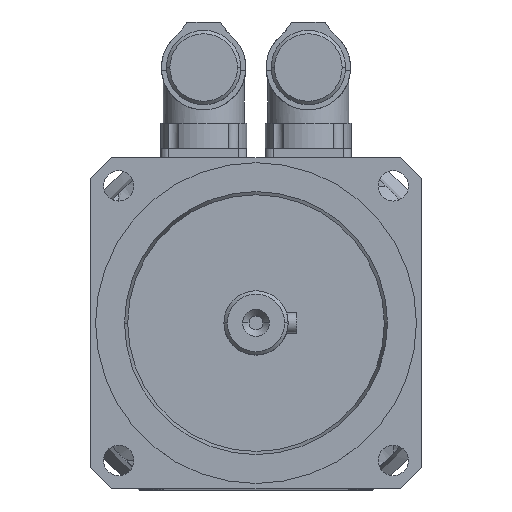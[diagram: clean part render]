
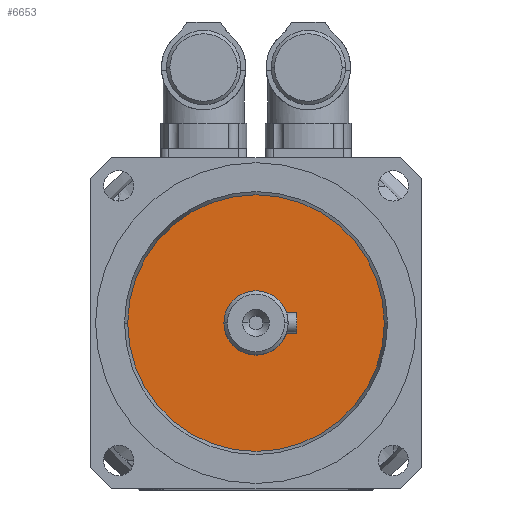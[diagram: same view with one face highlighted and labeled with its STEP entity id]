
A CAD part, top view. The second image highlights one B-rep face of the part: STEP entity #6653.
In plain terms, the highlighted free-form (B-spline) face has degree [1, 1] with [2, 2] control points.
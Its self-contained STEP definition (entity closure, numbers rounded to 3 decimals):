
#6323=CARTESIAN_POINT('',(-9.5,0.,241.5));
#6324=VERTEX_POINT('',#6323);
#6333=CARTESIAN_POINT('',(9.5,0.,241.5));
#6334=VERTEX_POINT('',#6333);
#6335=CARTESIAN_POINT('',(0.,0.,241.5));
#6336=DIRECTION('',(0.0,0.0,-1.0));
#6337=DIRECTION('',(-1.0,0.0,0.0));
#6338=AXIS2_PLACEMENT_3D('',#6335,#6336,#6337);
#6339=CIRCLE('',#6338,9.5);
#6340=EDGE_CURVE('',#6334,#6324,#6339,.T.);
#6593=CARTESIAN_POINT('',(38.0,0.,241.5));
#6594=VERTEX_POINT('',#6593);
#6610=CARTESIAN_POINT('',(-38.0,0.,241.5));
#6611=VERTEX_POINT('',#6610);
#6618=CARTESIAN_POINT('',(0.,0.,241.5));
#6619=DIRECTION('',(0.0,0.0,1.0));
#6620=DIRECTION('',(1.0,0.0,0.0));
#6621=AXIS2_PLACEMENT_3D('',#6618,#6619,#6620);
#6622=CIRCLE('',#6621,38.0);
#6623=EDGE_CURVE('',#6594,#6611,#6622,.T.);
#6628=CARTESIAN_POINT('',(-38.0,38.0,241.5));
#6629=CARTESIAN_POINT('',(38.0,38.0,241.5));
#6630=CARTESIAN_POINT('',(-38.0,-38.0,241.5));
#6631=CARTESIAN_POINT('',(38.0,-38.0,241.5));
#6632=B_SPLINE_SURFACE_WITH_KNOTS('',1,1,((#6628,#6630),(#6629,#6631)),.UNSPECIFIED.,.F.,.F.,.U.,(2,2),(2,2),(0.0,76.0),(0.0,76.0),.UNSPECIFIED.);
#6633=ORIENTED_EDGE('',*,*,#6623,.T.);
#6634=CARTESIAN_POINT('',(0.,0.,241.5));
#6635=DIRECTION('',(0.0,0.0,1.0));
#6636=DIRECTION('',(1.0,0.0,0.0));
#6637=AXIS2_PLACEMENT_3D('',#6634,#6635,#6636);
#6638=CIRCLE('',#6637,38.0);
#6639=EDGE_CURVE('',#6611,#6594,#6638,.T.);
#6640=ORIENTED_EDGE('',*,*,#6639,.T.);
#6641=EDGE_LOOP('',(#6633,#6640));
#6642=FACE_OUTER_BOUND('',#6641,.T.);
#6643=ORIENTED_EDGE('',*,*,#6340,.T.);
#6644=CARTESIAN_POINT('',(0.,0.,241.5));
#6645=DIRECTION('',(0.0,0.0,-1.0));
#6646=DIRECTION('',(-1.0,0.0,0.0));
#6647=AXIS2_PLACEMENT_3D('',#6644,#6645,#6646);
#6648=CIRCLE('',#6647,9.5);
#6649=EDGE_CURVE('',#6324,#6334,#6648,.T.);
#6650=ORIENTED_EDGE('',*,*,#6649,.T.);
#6651=EDGE_LOOP('',(#6643,#6650));
#6652=FACE_BOUND('',#6651,.T.);
#6653=ADVANCED_FACE('',(#6642,#6652),#6632,.F.);
